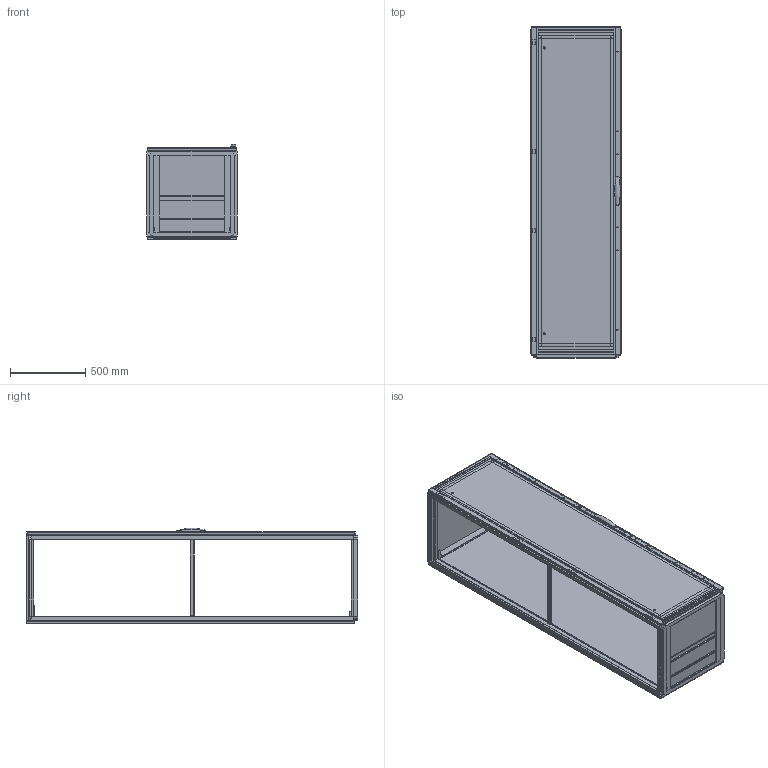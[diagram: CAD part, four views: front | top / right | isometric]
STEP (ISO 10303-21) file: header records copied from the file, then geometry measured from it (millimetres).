
FILE_DESCRIPTION(/* description */ ('STEP AP214'),/* implementation_level */ '2;1');
FILE_NAME(/* name */ 'MCS22066R5(0L)',/* time_stamp */ '2023-08-25T15:40:01+02:00',/* author */ ('License CC BY-ND 4.0'),/* organization */ ('CADENAS'),/* preprocessor_version */ 'ST-DEVELOPER v19.3',/* originating_system */ 'PARTsolutions',/* authorisation */ ' ');
FILE_SCHEMA (('AUTOMOTIVE_DESIGN {1 0 10303 214 3 1 1}'));
Length unit declared in the file: millimetre
Products named in the file (20): MCS22066R5(0L); CBP060(0)_Bottom Plate 2; CBP060(0)_Bottom Plate 1; CBPW600D300(0)_Bottom Plate 3; MPA06(0)_Mounting Plate Brackets 4; MPA06(0)_Mounting Plate Brackets 3; MPA06(0)_Mounting Plate Brackets 2; MP2206(0)_P1; MPA06(0)_Mounting Plate Brackets 1; CCR066R5(0)_Roof plate; LSSD2200(0)_Espagnolette Bottom; LSSD2200(0)_Espagnolette Top; LSSDXXXX(0)_Lock; DN2206R5(0)_Plain door; DNMK02(0)_Hinge Left; DNMK01(0)_Rod catches; CMB 600(0)_Middle Profile; CRP2206R5(0)_Rear Panel; CRPK06(0)_Rear Panel Mounting Kit; MCS22066R5_Frame
Assembly tree (33 placements, depth 2):
  MCS22066R5(0L)
    CBP060(0)_Bottom Plate 2
    CBP060(0)_Bottom Plate 1
    CBPW600D300(0)_Bottom Plate 3
    MPA06(0)_Mounting Plate Brackets 4
    MPA06(0)_Mounting Plate Brackets 3
    MPA06(0)_Mounting Plate Brackets 2
    MP2206(0)_P1
    MPA06(0)_Mounting Plate Brackets 1
    CCR066R5(0)_Roof plate
    LSSD2200(0)_Espagnolette Bottom
    LSSD2200(0)_Espagnolette Top
    LSSDXXXX(0)_Lock
    DN2206R5(0)_Plain door
    DNMK02(0)_Hinge Left  x4
    DNMK01(0)_Rod catches  x4
    CMB 600(0)_Middle Profile  x2
    CRP2206R5(0)_Rear Panel
    CRPK06(0)_Rear Panel Mounting Kit  x8
    MCS22066R5_Frame
Bounding box: 599 x 2206 x 634.91 mm (x, y, z)
Volume: 28982543.8 mm3; surface area: 12593232.4 mm2
Topology: 33 solids, 33 shells, 1481 faces, 3927 edges, 2587 vertices
Faces by surface type: plane 1292, cylinder 122, cone 66, torus 1
Full cylindrical faces by diameter (mm): 2.55 x2, 5 x18, 5.2 x2, 6 x6, 7 x6, 7.4 x4, 8 x18, 9 x2, 10 x8, 13 x2, 14 x4
Entity records: 36018 total; most frequent: CARTESIAN_POINT 6263, ORIENTED_EDGE 5908, DIRECTION 5572, EDGE_CURVE 2954, LINE 2654, VECTOR 2654, VERTEX_POINT 2000, AXIS2_PLACEMENT_3D 1459
